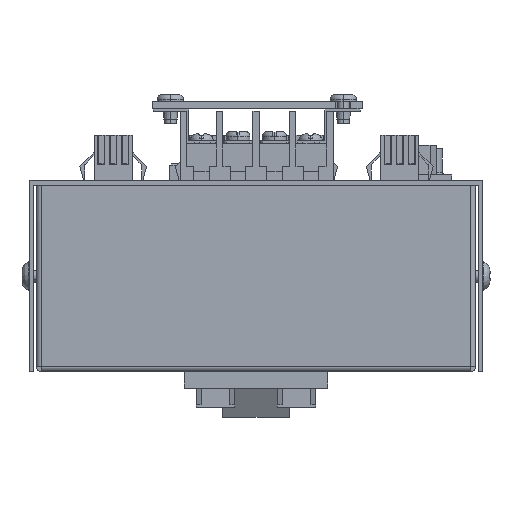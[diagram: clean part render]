
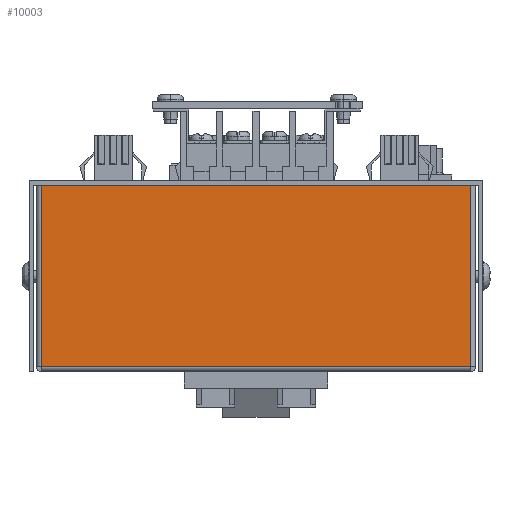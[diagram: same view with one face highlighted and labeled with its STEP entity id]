
A CAD part, front view. The second image highlights one B-rep face of the part: STEP entity #10003.
In plain terms, the highlighted planar face has unit normal (0, -1, 0).
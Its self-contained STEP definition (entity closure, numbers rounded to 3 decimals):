
#10003=ADVANCED_FACE('',(#20675),#20676,.T.);
#20675=FACE_OUTER_BOUND('',#40622,.T.);
#20676=PLANE('',#40623);
#40622=EDGE_LOOP('',(#69900,#69901,#69902,#69903));
#40623=AXIS2_PLACEMENT_3D('',#69904,#69905,#69906);
#69900=ORIENTED_EDGE('',*,*,#87142,.T.);
#69901=ORIENTED_EDGE('',*,*,#87143,.T.);
#69902=ORIENTED_EDGE('',*,*,#87144,.T.);
#69903=ORIENTED_EDGE('',*,*,#87145,.T.);
#69904=CARTESIAN_POINT('',(0.0,-57.0,0.));
#69905=DIRECTION('',(0.0,-1.0,0.));
#69906=DIRECTION('',(0.0,0.,-1.0));
#87142=EDGE_CURVE('',#106212,#106213,#106214,.T.);
#87143=EDGE_CURVE('',#106213,#106174,#106215,.T.);
#87144=EDGE_CURVE('',#106174,#106190,#106216,.T.);
#87145=EDGE_CURVE('',#106190,#106212,#106217,.T.);
#106174=VERTEX_POINT('',#140459);
#106190=VERTEX_POINT('',#140480);
#106212=VERTEX_POINT('',#140511);
#106213=VERTEX_POINT('',#140512);
#106214=LINE('',#140513,#140514);
#106215=LINE('',#140515,#140516);
#106216=LINE('',#140517,#140518);
#106217=LINE('',#140519,#140520);
#140459=CARTESIAN_POINT('',(-45.0,-57.0,0.));
#140480=CARTESIAN_POINT('',(45.0,-57.0,0.));
#140511=CARTESIAN_POINT('',(45.0,-57.0,38.0));
#140512=CARTESIAN_POINT('',(-45.0,-57.0,38.0));
#140513=CARTESIAN_POINT('',(45.0,-57.0,38.0));
#140514=VECTOR('',#153674,90.0);
#140515=CARTESIAN_POINT('',(-45.0,-57.0,38.0));
#140516=VECTOR('',#153675,38.0);
#140517=CARTESIAN_POINT('',(-45.0,-57.0,0.));
#140518=VECTOR('',#153676,90.0);
#140519=CARTESIAN_POINT('',(45.0,-57.0,0.));
#140520=VECTOR('',#153677,38.0);
#153674=DIRECTION('',(-1.0,0.0,0.0));
#153675=DIRECTION('',(0.0,0.0,-1.0));
#153676=DIRECTION('',(1.0,0.0,0.));
#153677=DIRECTION('',(0.0,0.0,1.0));
